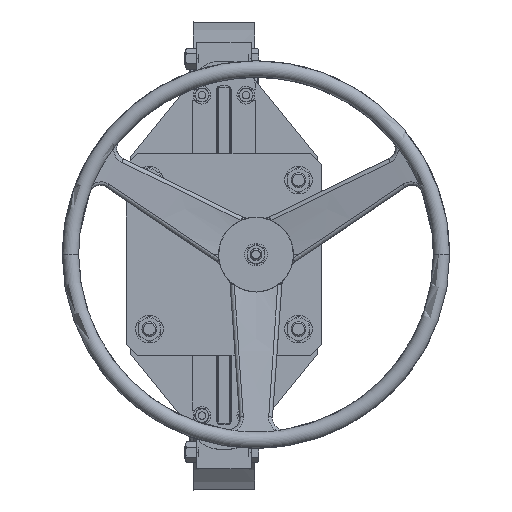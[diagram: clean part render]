
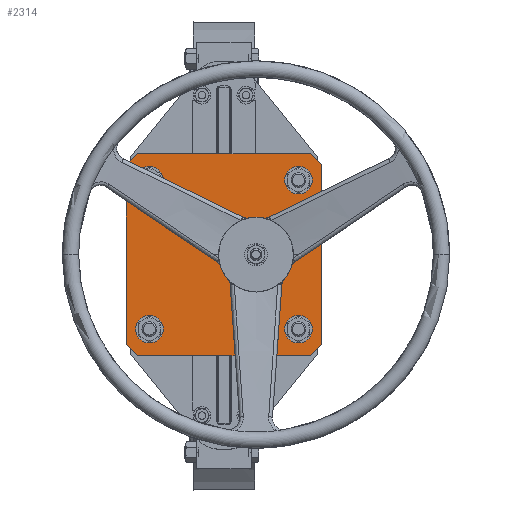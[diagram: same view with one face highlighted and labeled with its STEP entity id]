
A CAD part, top view. The second image highlights one B-rep face of the part: STEP entity #2314.
In plain terms, the highlighted planar face has unit normal (0, 0, 1).
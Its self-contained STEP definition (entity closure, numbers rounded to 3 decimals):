
#2314=ADVANCED_FACE('',(#7634,#7635,#7636,#7637,#7638,#7639),#7640,.T.);
#7634=FACE_BOUND('',#19638,.T.);
#7635=FACE_BOUND('',#19639,.T.);
#7636=FACE_BOUND('',#19640,.T.);
#7637=FACE_BOUND('',#19641,.T.);
#7638=FACE_BOUND('',#19642,.T.);
#7639=FACE_OUTER_BOUND('',#19643,.T.);
#7640=PLANE('',#19644);
#19638=EDGE_LOOP('',(#38508,#38509));
#19639=EDGE_LOOP('',(#38510,#38511));
#19640=EDGE_LOOP('',(#38512,#38513));
#19641=EDGE_LOOP('',(#38514,#38515));
#19642=EDGE_LOOP('',(#38516,#38517));
#19643=EDGE_LOOP('',(#38518,#38519,#38520,#38521,#38522,#38523,#38524,#38525));
#19644=AXIS2_PLACEMENT_3D('',#38526,#38527,#38528);
#38508=ORIENTED_EDGE('',*,*,#50808,.T.);
#38509=ORIENTED_EDGE('',*,*,#46741,.T.);
#38510=ORIENTED_EDGE('',*,*,#50807,.T.);
#38511=ORIENTED_EDGE('',*,*,#46745,.T.);
#38512=ORIENTED_EDGE('',*,*,#50806,.T.);
#38513=ORIENTED_EDGE('',*,*,#46749,.T.);
#38514=ORIENTED_EDGE('',*,*,#50805,.T.);
#38515=ORIENTED_EDGE('',*,*,#46753,.T.);
#38516=ORIENTED_EDGE('',*,*,#50804,.T.);
#38517=ORIENTED_EDGE('',*,*,#46757,.T.);
#38518=ORIENTED_EDGE('',*,*,#50974,.F.);
#38519=ORIENTED_EDGE('',*,*,#50975,.F.);
#38520=ORIENTED_EDGE('',*,*,#50976,.F.);
#38521=ORIENTED_EDGE('',*,*,#50977,.F.);
#38522=ORIENTED_EDGE('',*,*,#50978,.F.);
#38523=ORIENTED_EDGE('',*,*,#50979,.F.);
#38524=ORIENTED_EDGE('',*,*,#50980,.F.);
#38525=ORIENTED_EDGE('',*,*,#50981,.F.);
#38526=CARTESIAN_POINT('',(0.,0.,1053.5));
#38527=DIRECTION('',(0.,0.,1.));
#38528=DIRECTION('',(0.,1.,0.));
#46741=EDGE_CURVE('',#58388,#58385,#58389,.T.);
#46745=EDGE_CURVE('',#58396,#58393,#58397,.T.);
#46749=EDGE_CURVE('',#58404,#58401,#58405,.T.);
#46753=EDGE_CURVE('',#58412,#58409,#58413,.T.);
#46757=EDGE_CURVE('',#58420,#58417,#58421,.T.);
#50804=EDGE_CURVE('',#58417,#58420,#64856,.T.);
#50805=EDGE_CURVE('',#58409,#58412,#64857,.T.);
#50806=EDGE_CURVE('',#58401,#58404,#64858,.T.);
#50807=EDGE_CURVE('',#58393,#58396,#64859,.T.);
#50808=EDGE_CURVE('',#58385,#58388,#64860,.T.);
#50974=EDGE_CURVE('',#65070,#65071,#65072,.T.);
#50975=EDGE_CURVE('',#65073,#65070,#65074,.T.);
#50976=EDGE_CURVE('',#65075,#65073,#65076,.T.);
#50977=EDGE_CURVE('',#65077,#65075,#65078,.T.);
#50978=EDGE_CURVE('',#65079,#65077,#65080,.T.);
#50979=EDGE_CURVE('',#65081,#65079,#65082,.T.);
#50980=EDGE_CURVE('',#65083,#65081,#65084,.T.);
#50981=EDGE_CURVE('',#65071,#65083,#65085,.T.);
#58385=VERTEX_POINT('',#71699);
#58388=VERTEX_POINT('',#71703);
#58389=CIRCLE('',#71704,18.5);
#58393=VERTEX_POINT('',#71709);
#58396=VERTEX_POINT('',#71713);
#58397=CIRCLE('',#71714,18.5);
#58401=VERTEX_POINT('',#71719);
#58404=VERTEX_POINT('',#71723);
#58405=CIRCLE('',#71724,18.5);
#58409=VERTEX_POINT('',#71729);
#58412=VERTEX_POINT('',#71733);
#58413=CIRCLE('',#71734,18.5);
#58417=VERTEX_POINT('',#71739);
#58420=VERTEX_POINT('',#71743);
#58421=CIRCLE('',#71744,32.);
#64856=CIRCLE('',#95253,32.);
#64857=CIRCLE('',#95254,18.5);
#64858=CIRCLE('',#95255,18.5);
#64859=CIRCLE('',#95256,18.5);
#64860=CIRCLE('',#95257,18.5);
#65070=VERTEX_POINT('',#95537);
#65071=VERTEX_POINT('',#95538);
#65072=LINE('',#95539,#95540);
#65073=VERTEX_POINT('',#95541);
#65074=LINE('',#95542,#95543);
#65075=VERTEX_POINT('',#95544);
#65076=LINE('',#95545,#95546);
#65077=VERTEX_POINT('',#95547);
#65078=LINE('',#95548,#95549);
#65079=VERTEX_POINT('',#95550);
#65080=LINE('',#95551,#95552);
#65081=VERTEX_POINT('',#95553);
#65082=LINE('',#95554,#95555);
#65083=VERTEX_POINT('',#95556);
#65084=LINE('',#95557,#95558);
#65085=LINE('',#95559,#95560);
#71699=CARTESIAN_POINT('',(-81.5,-100.,1053.5));
#71703=CARTESIAN_POINT('',(-118.5,-100.,1053.5));
#71704=AXIS2_PLACEMENT_3D('',#103518,#103519,#103520);
#71709=CARTESIAN_POINT('',(-81.5,100.,1053.5));
#71713=CARTESIAN_POINT('',(-118.5,100.,1053.5));
#71714=AXIS2_PLACEMENT_3D('',#103526,#103527,#103528);
#71719=CARTESIAN_POINT('',(118.5,-100.,1053.5));
#71723=CARTESIAN_POINT('',(81.5,-100.,1053.5));
#71724=AXIS2_PLACEMENT_3D('',#103534,#103535,#103536);
#71729=CARTESIAN_POINT('',(118.5,100.,1053.5));
#71733=CARTESIAN_POINT('',(81.5,100.,1053.5));
#71734=AXIS2_PLACEMENT_3D('',#103542,#103543,#103544);
#71739=CARTESIAN_POINT('',(75.,0.,1053.5));
#71743=CARTESIAN_POINT('',(11.,0.,1053.5));
#71744=AXIS2_PLACEMENT_3D('',#103550,#103551,#103552);
#95253=AXIS2_PLACEMENT_3D('',#109285,#109286,#109287);
#95254=AXIS2_PLACEMENT_3D('',#109288,#109289,#109290);
#95255=AXIS2_PLACEMENT_3D('',#109291,#109292,#109293);
#95256=AXIS2_PLACEMENT_3D('',#109294,#109295,#109296);
#95257=AXIS2_PLACEMENT_3D('',#109297,#109298,#109299);
#95537=CARTESIAN_POINT('',(-116.,-135.5,1053.5));
#95538=CARTESIAN_POINT('',(-131.,-120.5,1053.5));
#95539=CARTESIAN_POINT('',(-124.625,-126.875,1053.5));
#95540=VECTOR('',#109655,10.);
#95541=CARTESIAN_POINT('',(116.,-135.5,1053.5));
#95542=CARTESIAN_POINT('',(-131.,-135.5,1053.5));
#95543=VECTOR('',#109656,10.);
#95544=CARTESIAN_POINT('',(131.,-120.5,1053.5));
#95545=CARTESIAN_POINT('',(124.625,-126.875,1053.5));
#95546=VECTOR('',#109657,10.);
#95547=CARTESIAN_POINT('',(131.,120.5,1053.5));
#95548=CARTESIAN_POINT('',(131.,-135.5,1053.5));
#95549=VECTOR('',#109658,10.);
#95550=CARTESIAN_POINT('',(116.,135.5,1053.5));
#95551=CARTESIAN_POINT('',(124.625,126.875,1053.5));
#95552=VECTOR('',#109659,10.);
#95553=CARTESIAN_POINT('',(-116.,135.5,1053.5));
#95554=CARTESIAN_POINT('',(131.,135.5,1053.5));
#95555=VECTOR('',#109660,10.);
#95556=CARTESIAN_POINT('',(-131.,120.5,1053.5));
#95557=CARTESIAN_POINT('',(-124.625,126.875,1053.5));
#95558=VECTOR('',#109661,10.);
#95559=CARTESIAN_POINT('',(-131.,135.5,1053.5));
#95560=VECTOR('',#109662,10.);
#103518=CARTESIAN_POINT('',(-100.,-100.,1053.5));
#103519=DIRECTION('',(0.,0.,-1.));
#103520=DIRECTION('',(1.,0.,0.));
#103526=CARTESIAN_POINT('',(-100.,100.,1053.5));
#103527=DIRECTION('',(0.,0.,-1.));
#103528=DIRECTION('',(1.,0.,0.));
#103534=CARTESIAN_POINT('',(100.,-100.,1053.5));
#103535=DIRECTION('',(0.,0.,-1.));
#103536=DIRECTION('',(1.,0.,0.));
#103542=CARTESIAN_POINT('',(100.,100.,1053.5));
#103543=DIRECTION('',(0.,0.,-1.));
#103544=DIRECTION('',(1.,0.,0.));
#103550=CARTESIAN_POINT('',(43.,0.,1053.5));
#103551=DIRECTION('',(0.,0.,-1.));
#103552=DIRECTION('',(1.,0.,0.));
#109285=CARTESIAN_POINT('',(43.,0.,1053.5));
#109286=DIRECTION('',(0.,0.,-1.));
#109287=DIRECTION('',(1.,0.,0.));
#109288=CARTESIAN_POINT('',(100.,100.,1053.5));
#109289=DIRECTION('',(0.,0.,-1.));
#109290=DIRECTION('',(1.,0.,0.));
#109291=CARTESIAN_POINT('',(100.,-100.,1053.5));
#109292=DIRECTION('',(0.,0.,-1.));
#109293=DIRECTION('',(1.,0.,0.));
#109294=CARTESIAN_POINT('',(-100.,100.,1053.5));
#109295=DIRECTION('',(0.,0.,-1.));
#109296=DIRECTION('',(1.,0.,0.));
#109297=CARTESIAN_POINT('',(-100.,-100.,1053.5));
#109298=DIRECTION('',(0.,0.,-1.));
#109299=DIRECTION('',(1.,0.,0.));
#109655=DIRECTION('',(-0.707,0.707,0.));
#109656=DIRECTION('',(-1.,0.,0.));
#109657=DIRECTION('',(-0.707,-0.707,0.));
#109658=DIRECTION('',(0.,-1.,0.));
#109659=DIRECTION('',(0.707,-0.707,0.));
#109660=DIRECTION('',(1.,0.,0.));
#109661=DIRECTION('',(0.707,0.707,0.));
#109662=DIRECTION('',(0.,1.,0.));
